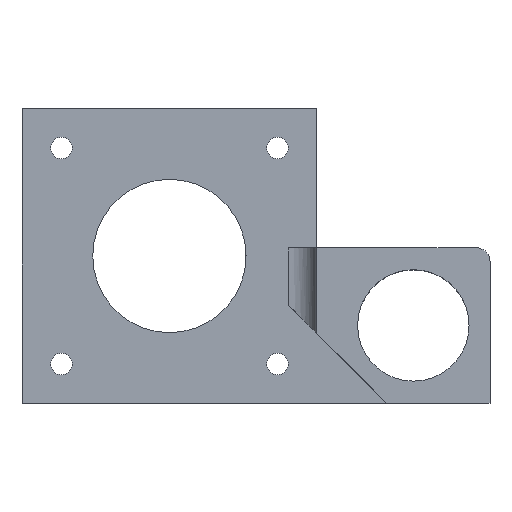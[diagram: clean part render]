
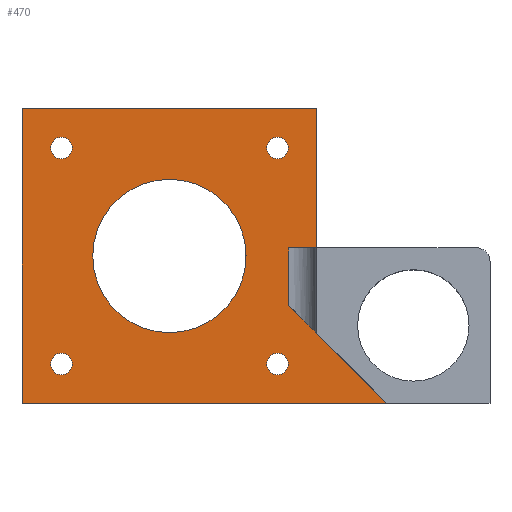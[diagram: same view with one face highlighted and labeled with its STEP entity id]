
A CAD part, top view. The second image highlights one B-rep face of the part: STEP entity #470.
In plain terms, the highlighted planar face has unit normal (0, 0, 1).
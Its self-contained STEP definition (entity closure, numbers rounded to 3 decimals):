
#8 = ORIENTED_EDGE ( 'NONE', *, *, #1157, .F. ) ;
#30 = EDGE_CURVE ( 'NONE', #33, #743, #654, .T. ) ;
#33 = VERTEX_POINT ( 'NONE', #946 ) ;
#56 = ORIENTED_EDGE ( 'NONE', *, *, #636, .T. ) ;
#78 = EDGE_LOOP ( 'NONE', ( #892, #803 ) ) ;
#79 = DIRECTION ( 'NONE',  ( -1., 0., 0. ) ) ;
#83 = LINE ( 'NONE', #613, #647 ) ;
#93 = VERTEX_POINT ( 'NONE', #877 ) ;
#94 = VERTEX_POINT ( 'NONE', #685 ) ;
#101 = CARTESIAN_POINT ( 'NONE',  ( 17.15, 81.15, 4. ) ) ;
#103 = AXIS2_PLACEMENT_3D ( 'NONE', #552, #736, #760 ) ;
#104 = CARTESIAN_POINT ( 'NONE',  ( 15.5, 64.5, 4. ) ) ;
#108 = VECTOR ( 'NONE', #1177, 1000. ) ;
#112 = DIRECTION ( 'NONE',  ( 0., 0., -1. ) ) ;
#116 = LINE ( 'NONE', #1144, #222 ) ;
#123 = AXIS2_PLACEMENT_3D ( 'NONE', #164, #380, #982 ) ;
#126 = EDGE_CURVE ( 'NONE', #895, #1046, #1185, .T. ) ;
#131 = EDGE_CURVE ( 'NONE', #1181, #93, #608, .T. ) ;
#136 = CARTESIAN_POINT ( 'NONE',  ( -13.95, 64.5, 4. ) ) ;
#147 = AXIS2_PLACEMENT_3D ( 'NONE', #617, #197, #1225 ) ;
#160 = CARTESIAN_POINT ( 'NONE',  ( 31.15, 58.85, 4. ) ) ;
#163 = CARTESIAN_POINT ( 'NONE',  ( 21.15, 81.15, 4. ) ) ;
#164 = CARTESIAN_POINT ( 'NONE',  ( 15.5, 95.5, 4. ) ) ;
#182 = AXIS2_PLACEMENT_3D ( 'NONE', #382, #899, #1096 ) ;
#189 = CARTESIAN_POINT ( 'NONE',  ( -17.05, 95.5, 4. ) ) ;
#197 = DIRECTION ( 'NONE',  ( 0., 0., -1. ) ) ;
#221 = ORIENTED_EDGE ( 'NONE', *, *, #126, .T. ) ;
#222 = VECTOR ( 'NONE', #830, 1000. ) ;
#269 = CARTESIAN_POINT ( 'NONE',  ( -13.95, 95.5, 4. ) ) ;
#285 = CIRCLE ( 'NONE', #940, 11. ) ;
#286 = CARTESIAN_POINT ( 'NONE',  ( -15.5, 64.5, 4. ) ) ;
#302 = CARTESIAN_POINT ( 'NONE',  ( 21.15, 58.85, 4. ) ) ;
#313 = EDGE_CURVE ( 'NONE', #1046, #895, #751, .T. ) ;
#317 = ORIENTED_EDGE ( 'NONE', *, *, #488, .T. ) ;
#320 = CARTESIAN_POINT ( 'NONE',  ( -15.5, 95.5, 4. ) ) ;
#349 = EDGE_CURVE ( 'NONE', #1056, #94, #1211, .T. ) ;
#357 = FACE_OUTER_BOUND ( 'NONE', #886, .T. ) ;
#372 = DIRECTION ( 'NONE',  ( -0.707, 0.707, 0. ) ) ;
#380 = DIRECTION ( 'NONE',  ( 0., 0., -1. ) ) ;
#382 = CARTESIAN_POINT ( 'NONE',  ( 15.5, 64.5, 4. ) ) ;
#415 = AXIS2_PLACEMENT_3D ( 'NONE', #104, #112, #514 ) ;
#427 = CIRCLE ( 'NONE', #1070, 1.55 ) ;
#429 = FACE_BOUND ( 'NONE', #78, .T. ) ;
#435 = FACE_BOUND ( 'NONE', #1118, .T. ) ;
#447 = VECTOR ( 'NONE', #372, 1000. ) ;
#454 = FACE_BOUND ( 'NONE', #1044, .T. ) ;
#459 = CARTESIAN_POINT ( 'NONE',  ( -17.05, 64.5, 4. ) ) ;
#466 = VERTEX_POINT ( 'NONE', #1053 ) ;
#469 = ORIENTED_EDGE ( 'NONE', *, *, #509, .T. ) ;
#470 = ADVANCED_FACE ( 'NONE', ( #357, #435, #429, #454, #1038, #748 ), #1259, .F. ) ;
#474 = CARTESIAN_POINT ( 'NONE',  ( -21.15, 101.15, 4. ) ) ;
#488 = EDGE_CURVE ( 'NONE', #816, #1047, #769, .T. ) ;
#489 = CARTESIAN_POINT ( 'NONE',  ( -21.15, 58.85, 4. ) ) ;
#495 = CARTESIAN_POINT ( 'NONE',  ( 11., 80., 4. ) ) ;
#499 = DIRECTION ( 'NONE',  ( -1., 0., 0. ) ) ;
#504 = VERTEX_POINT ( 'NONE', #269 ) ;
#509 = EDGE_CURVE ( 'NONE', #93, #1181, #875, .T. ) ;
#514 = DIRECTION ( 'NONE',  ( -1., 0., 0. ) ) ;
#515 = AXIS2_PLACEMENT_3D ( 'NONE', #286, #873, #785 ) ;
#517 = DIRECTION ( 'NONE',  ( 0., 1., 0. ) ) ;
#523 = ORIENTED_EDGE ( 'NONE', *, *, #979, .T. ) ;
#541 = EDGE_LOOP ( 'NONE', ( #906, #221 ) ) ;
#552 = CARTESIAN_POINT ( 'NONE',  ( -21.15, 58.85, 4. ) ) ;
#554 = ORIENTED_EDGE ( 'NONE', *, *, #1019, .T. ) ;
#556 = VECTOR ( 'NONE', #517, 1000. ) ;
#597 = CARTESIAN_POINT ( 'NONE',  ( -15.5, 95.5, 4. ) ) ;
#600 = CIRCLE ( 'NONE', #707, 1.55 ) ;
#607 = EDGE_CURVE ( 'NONE', #1304, #33, #1192, .T. ) ;
#608 = CIRCLE ( 'NONE', #733, 1.55 ) ;
#611 = DIRECTION ( 'NONE',  ( -1., 0., 0. ) ) ;
#613 = CARTESIAN_POINT ( 'NONE',  ( -21.15, 58.85, 4. ) ) ;
#617 = CARTESIAN_POINT ( 'NONE',  ( 0., 80., 4. ) ) ;
#636 = EDGE_CURVE ( 'NONE', #1147, #466, #285, .T. ) ;
#640 = CARTESIAN_POINT ( 'NONE',  ( 17.15, 81.15, 4. ) ) ;
#647 = VECTOR ( 'NONE', #499, 1000. ) ;
#651 = DIRECTION ( 'NONE',  ( 0., 0., -1. ) ) ;
#652 = EDGE_CURVE ( 'NONE', #713, #504, #600, .T. ) ;
#654 = LINE ( 'NONE', #640, #1247 ) ;
#676 = LINE ( 'NONE', #474, #108 ) ;
#685 = CARTESIAN_POINT ( 'NONE',  ( 21.15, 101.15, 4. ) ) ;
#692 = ORIENTED_EDGE ( 'NONE', *, *, #1143, .F. ) ;
#701 = CARTESIAN_POINT ( 'NONE',  ( 0., 80., 4. ) ) ;
#705 = DIRECTION ( 'NONE',  ( 0., 1., 0. ) ) ;
#707 = AXIS2_PLACEMENT_3D ( 'NONE', #320, #1208, #611 ) ;
#713 = VERTEX_POINT ( 'NONE', #189 ) ;
#716 = VECTOR ( 'NONE', #705, 1000. ) ;
#718 = DIRECTION ( 'NONE',  ( -1., 0., 0. ) ) ;
#724 = EDGE_CURVE ( 'NONE', #466, #1147, #1004, .T. ) ;
#733 = AXIS2_PLACEMENT_3D ( 'NONE', #1315, #1109, #79 ) ;
#736 = DIRECTION ( 'NONE',  ( 0., 0., -1. ) ) ;
#741 = EDGE_CURVE ( 'NONE', #504, #713, #427, .T. ) ;
#743 = VERTEX_POINT ( 'NONE', #101 ) ;
#748 = FACE_BOUND ( 'NONE', #541, .T. ) ;
#751 = CIRCLE ( 'NONE', #415, 1.55 ) ;
#760 = DIRECTION ( 'NONE',  ( -1., 0., 0. ) ) ;
#767 = CARTESIAN_POINT ( 'NONE',  ( 13.95, 64.5, 4. ) ) ;
#769 = CIRCLE ( 'NONE', #1048, 1.55 ) ;
#785 = DIRECTION ( 'NONE',  ( -1., 0., 0. ) ) ;
#790 = CARTESIAN_POINT ( 'NONE',  ( -21.15, 58.85, 4. ) ) ;
#797 = CIRCLE ( 'NONE', #515, 1.55 ) ;
#803 = ORIENTED_EDGE ( 'NONE', *, *, #741, .T. ) ;
#816 = VERTEX_POINT ( 'NONE', #136 ) ;
#819 = LINE ( 'NONE', #489, #556 ) ;
#830 = DIRECTION ( 'NONE',  ( 1., 0., 0. ) ) ;
#836 = ORIENTED_EDGE ( 'NONE', *, *, #131, .T. ) ;
#843 = DIRECTION ( 'NONE',  ( 0., 1., 0. ) ) ;
#844 = EDGE_CURVE ( 'NONE', #743, #1056, #116, .T. ) ;
#873 = DIRECTION ( 'NONE',  ( 0., 0., -1. ) ) ;
#875 = CIRCLE ( 'NONE', #123, 1.55 ) ;
#877 = CARTESIAN_POINT ( 'NONE',  ( 17.05, 95.5, 4. ) ) ;
#886 = EDGE_LOOP ( 'NONE', ( #913, #974, #1135, #1260, #554, #692, #8 ) ) ;
#892 = ORIENTED_EDGE ( 'NONE', *, *, #652, .T. ) ;
#895 = VERTEX_POINT ( 'NONE', #1036 ) ;
#899 = DIRECTION ( 'NONE',  ( 0., 0., -1. ) ) ;
#906 = ORIENTED_EDGE ( 'NONE', *, *, #313, .T. ) ;
#909 = DIRECTION ( 'NONE',  ( 0., 0., -1. ) ) ;
#913 = ORIENTED_EDGE ( 'NONE', *, *, #607, .T. ) ;
#940 = AXIS2_PLACEMENT_3D ( 'NONE', #701, #909, #1324 ) ;
#946 = CARTESIAN_POINT ( 'NONE',  ( 17.15, 72.85, 4. ) ) ;
#952 = EDGE_LOOP ( 'NONE', ( #523, #317 ) ) ;
#964 = ORIENTED_EDGE ( 'NONE', *, *, #724, .T. ) ;
#974 = ORIENTED_EDGE ( 'NONE', *, *, #30, .T. ) ;
#979 = EDGE_CURVE ( 'NONE', #1047, #816, #797, .T. ) ;
#982 = DIRECTION ( 'NONE',  ( -1., 0., 0. ) ) ;
#1002 = DIRECTION ( 'NONE',  ( 0., 0., -1. ) ) ;
#1004 = CIRCLE ( 'NONE', #147, 11. ) ;
#1019 = EDGE_CURVE ( 'NONE', #94, #1075, #676, .T. ) ;
#1031 = VERTEX_POINT ( 'NONE', #790 ) ;
#1036 = CARTESIAN_POINT ( 'NONE',  ( 17.05, 64.5, 4. ) ) ;
#1038 = FACE_BOUND ( 'NONE', #952, .T. ) ;
#1044 = EDGE_LOOP ( 'NONE', ( #836, #469 ) ) ;
#1046 = VERTEX_POINT ( 'NONE', #767 ) ;
#1047 = VERTEX_POINT ( 'NONE', #459 ) ;
#1048 = AXIS2_PLACEMENT_3D ( 'NONE', #1159, #651, #1253 ) ;
#1053 = CARTESIAN_POINT ( 'NONE',  ( -11., 80., 4. ) ) ;
#1056 = VERTEX_POINT ( 'NONE', #163 ) ;
#1070 = AXIS2_PLACEMENT_3D ( 'NONE', #597, #1002, #718 ) ;
#1075 = VERTEX_POINT ( 'NONE', #1230 ) ;
#1096 = DIRECTION ( 'NONE',  ( -1., 0., 0. ) ) ;
#1109 = DIRECTION ( 'NONE',  ( 0., 0., -1. ) ) ;
#1118 = EDGE_LOOP ( 'NONE', ( #964, #56 ) ) ;
#1135 = ORIENTED_EDGE ( 'NONE', *, *, #844, .T. ) ;
#1143 = EDGE_CURVE ( 'NONE', #1031, #1075, #819, .T. ) ;
#1144 = CARTESIAN_POINT ( 'NONE',  ( 21.15, 81.15, 4. ) ) ;
#1147 = VERTEX_POINT ( 'NONE', #495 ) ;
#1157 = EDGE_CURVE ( 'NONE', #1304, #1031, #83, .T. ) ;
#1159 = CARTESIAN_POINT ( 'NONE',  ( -15.5, 64.5, 4. ) ) ;
#1177 = DIRECTION ( 'NONE',  ( -1., 0., 0. ) ) ;
#1181 = VERTEX_POINT ( 'NONE', #1278 ) ;
#1185 = CIRCLE ( 'NONE', #182, 1.55 ) ;
#1192 = LINE ( 'NONE', #1291, #447 ) ;
#1208 = DIRECTION ( 'NONE',  ( 0., 0., -1. ) ) ;
#1211 = LINE ( 'NONE', #302, #716 ) ;
#1225 = DIRECTION ( 'NONE',  ( -1., 0., 0. ) ) ;
#1230 = CARTESIAN_POINT ( 'NONE',  ( -21.15, 101.15, 4. ) ) ;
#1247 = VECTOR ( 'NONE', #843, 1000. ) ;
#1253 = DIRECTION ( 'NONE',  ( -1., 0., 0. ) ) ;
#1259 = PLANE ( 'NONE',  #103 ) ;
#1260 = ORIENTED_EDGE ( 'NONE', *, *, #349, .T. ) ;
#1278 = CARTESIAN_POINT ( 'NONE',  ( 13.95, 95.5, 4. ) ) ;
#1291 = CARTESIAN_POINT ( 'NONE',  ( 31.15, 58.85, 4. ) ) ;
#1304 = VERTEX_POINT ( 'NONE', #160 ) ;
#1315 = CARTESIAN_POINT ( 'NONE',  ( 15.5, 95.5, 4. ) ) ;
#1324 = DIRECTION ( 'NONE',  ( -1., 0., 0. ) ) ;
